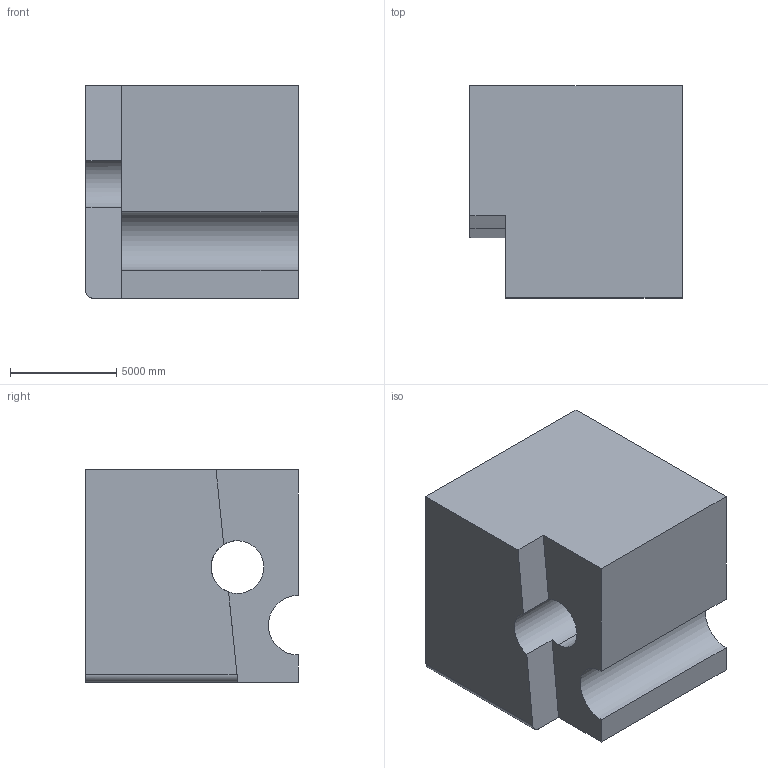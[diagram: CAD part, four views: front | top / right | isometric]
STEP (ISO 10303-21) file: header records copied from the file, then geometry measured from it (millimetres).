
FILE_DESCRIPTION (( 'STEP AP203' ), '1' );
FILE_NAME ('37.STEP', '2022-09-01T11:42:25', ( 'user' ), ( '' ), 'SwSTEP 2.0', 'SolidWorks 2021', '' );
FILE_SCHEMA (( 'CONFIG_CONTROL_DESIGN' ));
Length unit declared in the file: centimetre
Products named in the file (1): 37
Bounding box: 10000 x 10000 x 10000 mm (x, y, z)
Volume: 875591629104.9 mm3; surface area: 650963198.9 mm2
Topology: 1 solids, 1 shells, 14 faces, 39 edges, 26 vertices
Faces by surface type: plane 10, cylinder 4
Entity records: 533 total; most frequent: CARTESIAN_POINT 83, ORIENTED_EDGE 78, DIRECTION 77, EDGE_CURVE 39, LINE 29, VECTOR 29, VERTEX_POINT 26, AXIS2_PLACEMENT_3D 24
